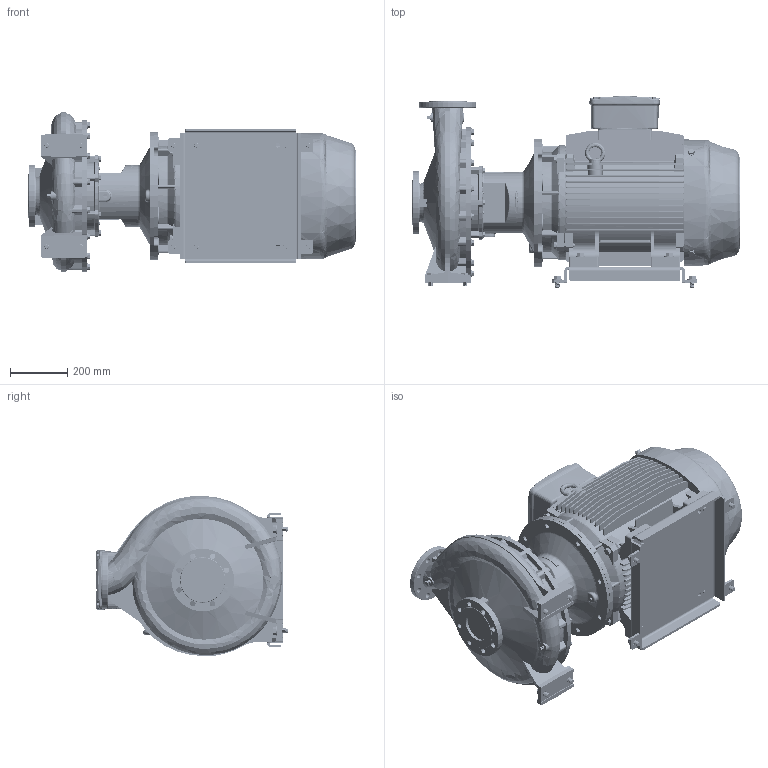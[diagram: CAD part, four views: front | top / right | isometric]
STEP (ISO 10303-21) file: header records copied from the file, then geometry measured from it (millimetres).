
FILE_DESCRIPTION (( 'STEP AP214' ), '1' );
FILE_NAME ('GSD4 80-400_37 & 45_(225SM)_W21.STEP', '2026-07-01T06:03:12', ( '' ), ( '' ), 'SwSTEP 2.0', 'SolidWorks 2024', '' );
FILE_SCHEMA (( 'AUTOMOTIVE_DESIGN' ));
Length unit declared in the file: millimetre
Products named in the file (8): 80-400-225S_ﾃﾞﾌｫﾙﾄ; Parametric bolt_SFT-A359B; GSD4 80-400_37 & 45_(225SM)_W21; 225S_M4P IE3_W21T_B35; CGS11-5282; Parametric bolt_SFT-A353B; Parametric Flat Washer_M16; Parametric bolt_SFT-A351B
Assembly tree (27 placements, depth 2):
  GSD4 80-400_37 & 45_(225SM)_W21
    80-400-225S_ﾃﾞﾌｫﾙﾄ
    225S_M4P IE3_W21T_B35
    CGS11-5282
    Parametric bolt_SFT-A353B  x4
    Parametric bolt_SFT-A351B  x4
    Parametric bolt_SFT-A359B  x4
    Parametric Flat Washer_M16  x12
Bounding box: 1149.5 x 671 x 562.76 mm (x, y, z)
Volume: 140481896.6 mm3; surface area: 5303837 mm2
Topology: 36 solids, 41 shells, 4545 faces, 11982 edges, 7651 vertices
Faces by surface type: plane 1849, cylinder 1541, cone 532, torus 319, bspline 286, sphere 18
Entity records: 178829 total; most frequent: CARTESIAN_POINT 84416, ORIENTED_EDGE 20710, DIRECTION 18687, EDGE_CURVE 10355, AXIS2_PLACEMENT_3D 6845, VERTEX_POINT 6604, VECTOR 4997, LINE 4997
